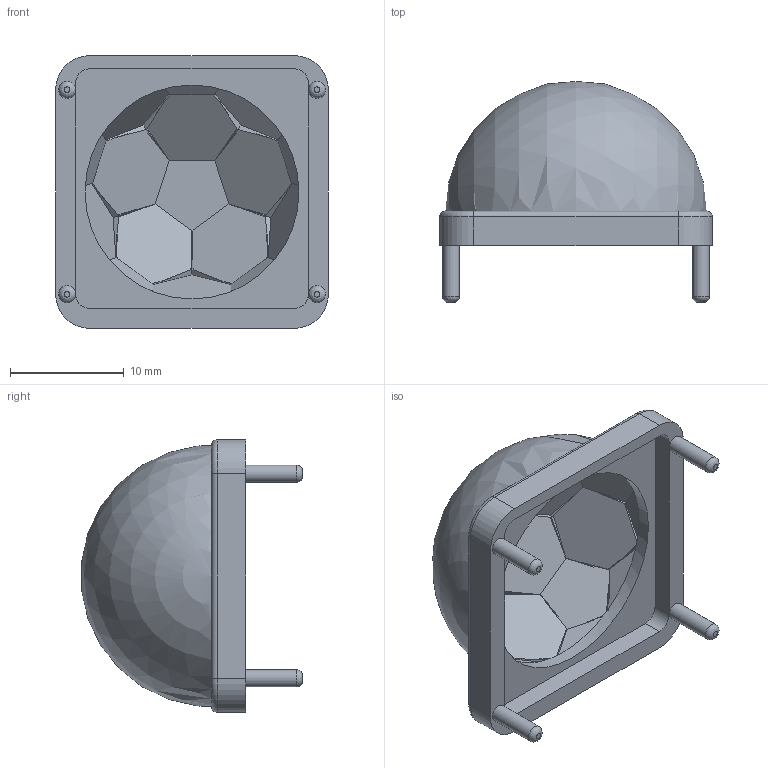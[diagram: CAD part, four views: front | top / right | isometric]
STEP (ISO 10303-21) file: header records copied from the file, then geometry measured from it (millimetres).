
FILE_DESCRIPTION(/* description */ (''),/* implementation_level */ '2;1');
FILE_NAME(/* name */ 'Lens.step',/* time_stamp */ '2026-06-27T03:53:07+02:00',/* author */ (''),/* organization */ (''),/* preprocessor_version */ 'ST-DEVELOPER v20.1',/* originating_system */ 'Autodesk Translation Framework v15.8.0.0',/* authorisation */ '');
FILE_SCHEMA (('AUTOMOTIVE_DESIGN { 1 0 10303 214 3 1 1 }'));
Length unit declared in the file: millimetre
Products named in the file (2): 2026-06-27-03-53-07-096; 2026-06-27-03-53-07-097
Assembly tree (1 placements, depth 2):
  2026-06-27-03-53-07-096
    2026-06-27-03-53-07-097
Bounding box: 24 x 19.43 x 24 mm (x, y, z)
Volume: 1442.6 mm3; surface area: 2637.9 mm2
Topology: 1 solids, 1 shells, 201 faces, 533 edges, 339 vertices
Faces by surface type: plane 175, cylinder 16, bspline 4, torus 4, sphere 2
Full cylindrical faces by diameter (mm): 1.5 x4
Entity records: 6240 total; most frequent: CARTESIAN_POINT 1178, ORIENTED_EDGE 1062, DIRECTION 998, EDGE_CURVE 531, LINE 464, VECTOR 464, VERTEX_POINT 339, AXIS2_PLACEMENT_3D 267
